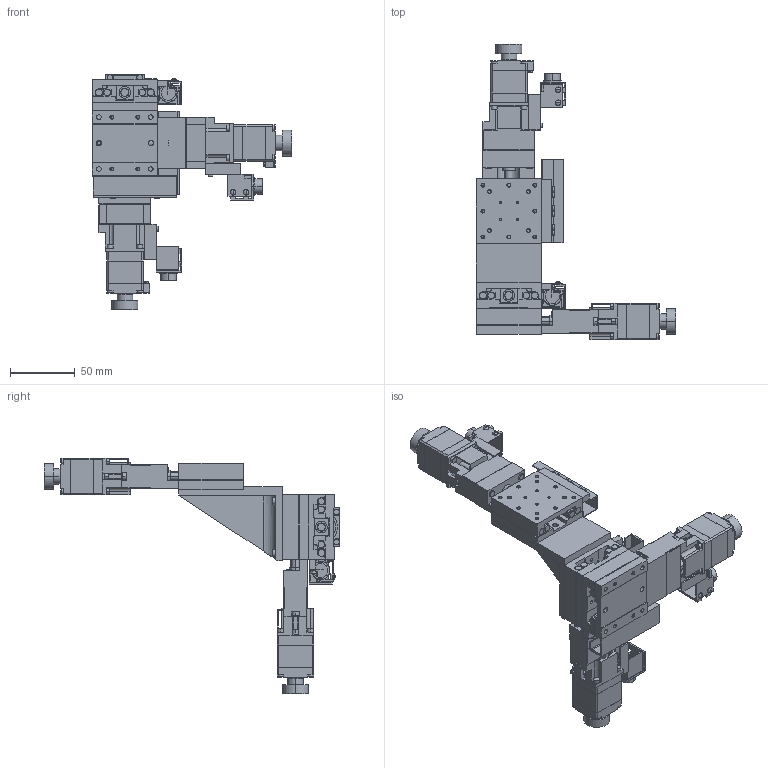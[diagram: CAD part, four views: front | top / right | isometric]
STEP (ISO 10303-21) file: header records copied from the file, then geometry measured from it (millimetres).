
FILE_DESCRIPTION(('STEP AP203'),'1');
FILE_NAME('C:/3D-Trans/3D_PMZG513M-R□-C4+240129.step','2024-02-27T01:04:47',(' '),(' '),'Spatial InterOp 3D',' ',' ');
FILE_SCHEMA(('CONFIG_CONTROL_DESIGN'));
Length unit declared in the file: millimetre
Products named in the file (19): 1; 2; 3; 4; 5; 6; 7; 8; 9; 10; 11; 12; 13; 14; 15; 16; 17; 18; 19
Bounding box: 153.5 x 227.5 x 181.5 mm (x, y, z)
Volume: 355593.2 mm3; surface area: 172973.6 mm2
Topology: 19 solids, 19 shells, 2405 faces, 6196 edges, 3936 vertices
Faces by surface type: plane 1406, cylinder 751, cone 236, sphere 12
Entity records: 74080 total; most frequent: CARTESIAN_POINT 13144, DIRECTION 12854, ORIENTED_EDGE 12248, EDGE_CURVE 6124, AXIS2_PLACEMENT_3D 4354, LINE 4146, VECTOR 4146, VERTEX_POINT 3936
